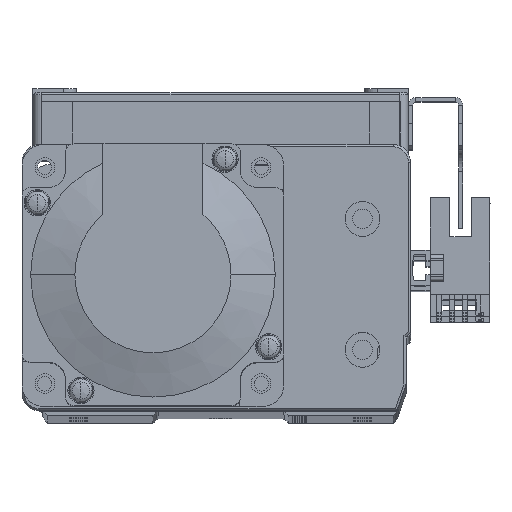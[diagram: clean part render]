
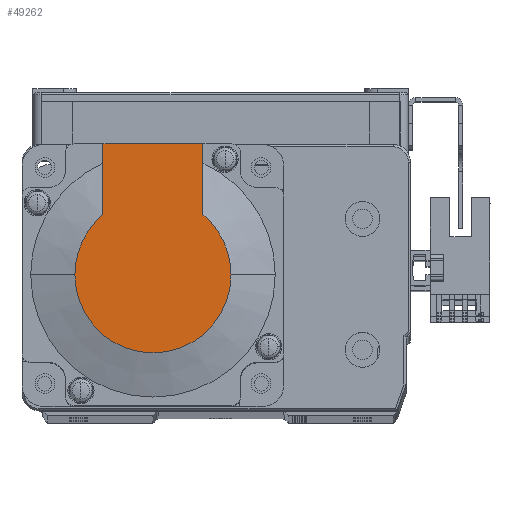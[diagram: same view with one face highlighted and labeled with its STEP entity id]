
A CAD part, top view. The second image highlights one B-rep face of the part: STEP entity #49262.
In plain terms, the highlighted planar face has unit normal (0, 0, 1) as drawn and (-1, 0, 0) by its records, which use the part's own axes.
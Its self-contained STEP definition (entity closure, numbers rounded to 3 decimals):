
#1513 = PLANE ( 'NONE',  #35104 ) ;
#1516 = CARTESIAN_POINT ( 'NONE',  ( -99., -8.941, 0. ) ) ;
#1530 = DIRECTION ( 'NONE',  ( 0., 0., 1. ) ) ;
#1578 = DIRECTION ( 'NONE',  ( -1., 0., 0. ) ) ;
#5503 = VERTEX_POINT ( 'NONE', #10700 ) ;
#5551 = VERTEX_POINT ( 'NONE', #10667 ) ;
#5573 = VERTEX_POINT ( 'NONE', #10660 ) ;
#5837 = VERTEX_POINT ( 'NONE', #10886 ) ;
#5913 = VERTEX_POINT ( 'NONE', #10854 ) ;
#5944 = VERTEX_POINT ( 'NONE', #10965 ) ;
#10660 = CARTESIAN_POINT ( 'NONE',  ( -99., 0., -17.881 ) ) ;
#10667 = CARTESIAN_POINT ( 'NONE',  ( -99., 13.735, 11.45 ) ) ;
#10700 = CARTESIAN_POINT ( 'NONE',  ( -99., 0., 17.881 ) ) ;
#10854 = CARTESIAN_POINT ( 'NONE',  ( -99., 30., -11.45 ) ) ;
#10886 = CARTESIAN_POINT ( 'NONE',  ( -99., 30., 11.45 ) ) ;
#10965 = CARTESIAN_POINT ( 'NONE',  ( -99., 13.735, -11.45 ) ) ;
#14296 = CARTESIAN_POINT ( 'NONE',  ( -99., 0., 0. ) ) ;
#14321 = DIRECTION ( 'NONE',  ( 0., 0., -1. ) ) ;
#14326 = DIRECTION ( 'NONE',  ( -1., 0., 0. ) ) ;
#14418 = CARTESIAN_POINT ( 'NONE',  ( -99., 0., 11.45 ) ) ;
#14444 = DIRECTION ( 'NONE',  ( 0., -1., 0. ) ) ;
#14489 = DIRECTION ( 'NONE',  ( 0., -1., 0. ) ) ;
#14491 = CARTESIAN_POINT ( 'NONE',  ( -99., -8.941, -11.45 ) ) ;
#14544 = DIRECTION ( 'NONE',  ( 0., 0., 1. ) ) ;
#14568 = CARTESIAN_POINT ( 'NONE',  ( -99., 30., 25. ) ) ;
#16883 = CARTESIAN_POINT ( 'NONE',  ( -99., 0., 0. ) ) ;
#16884 = DIRECTION ( 'NONE',  ( -1., 0., 0. ) ) ;
#16893 = DIRECTION ( 'NONE',  ( 0., 0., -1. ) ) ;
#17013 = DIRECTION ( 'NONE',  ( 0., 0., -1. ) ) ;
#17021 = CARTESIAN_POINT ( 'NONE',  ( -99., 0., 0. ) ) ;
#17022 = DIRECTION ( 'NONE',  ( -1., 0., 0. ) ) ;
#17797 = CIRCLE ( 'NONE', #25476, 17.881 ) ;
#17883 = CIRCLE ( 'NONE', #25527, 17.881 ) ;
#18274 = CIRCLE ( 'NONE', #25580, 17.881 ) ;
#18342 = VECTOR ( 'NONE', #14444, 1000. ) ;
#18379 = LINE ( 'NONE', #14418, #18342 ) ;
#18412 = VECTOR ( 'NONE', #14544, 1000. ) ;
#18415 = VECTOR ( 'NONE', #14489, 1000. ) ;
#18421 = LINE ( 'NONE', #14568, #18412 ) ;
#18423 = LINE ( 'NONE', #14491, #18415 ) ;
#25476 = AXIS2_PLACEMENT_3D ( 'NONE', #16883, #16884, #16893 ) ;
#25527 = AXIS2_PLACEMENT_3D ( 'NONE', #17021, #17022, #17013 ) ;
#25580 = AXIS2_PLACEMENT_3D ( 'NONE', #14296, #14326, #14321 ) ;
#25743 = EDGE_LOOP ( 'NONE', ( #36051, #36038, #35933, #36082, #35895, #35854 ) ) ;
#30902 = FACE_OUTER_BOUND ( 'NONE', #25743, .T. ) ;
#35104 = AXIS2_PLACEMENT_3D ( 'NONE', #1516, #1578, #1530 ) ;
#35854 = ORIENTED_EDGE ( 'NONE', *, *, #46624, .F. ) ;
#35895 = ORIENTED_EDGE ( 'NONE', *, *, #46568, .F. ) ;
#35933 = ORIENTED_EDGE ( 'NONE', *, *, #46270, .T. ) ;
#36038 = ORIENTED_EDGE ( 'NONE', *, *, #46530, .T. ) ;
#36051 = ORIENTED_EDGE ( 'NONE', *, *, #46611, .T. ) ;
#36082 = ORIENTED_EDGE ( 'NONE', *, *, #46235, .T. ) ;
#46235 = EDGE_CURVE ( 'NONE', #5503, #5551, #17797, .T. ) ;
#46270 = EDGE_CURVE ( 'NONE', #5573, #5503, #17883, .T. ) ;
#46530 = EDGE_CURVE ( 'NONE', #5944, #5573, #18274, .T. ) ;
#46568 = EDGE_CURVE ( 'NONE', #5837, #5551, #18379, .T. ) ;
#46611 = EDGE_CURVE ( 'NONE', #5913, #5944, #18423, .T. ) ;
#46624 = EDGE_CURVE ( 'NONE', #5913, #5837, #18421, .T. ) ;
#49262 = ADVANCED_FACE ( 'NONE', ( #30902 ), #1513, .T. ) ;
